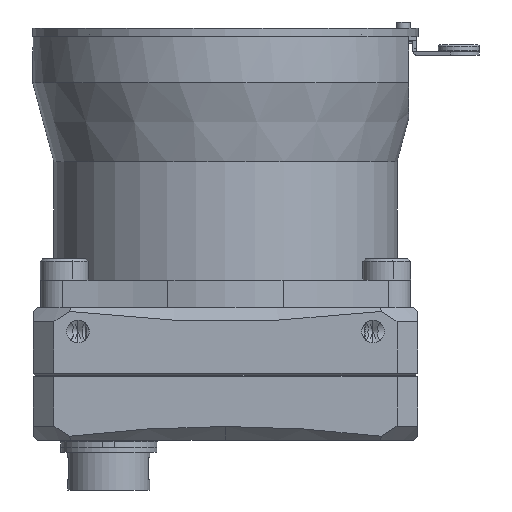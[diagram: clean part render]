
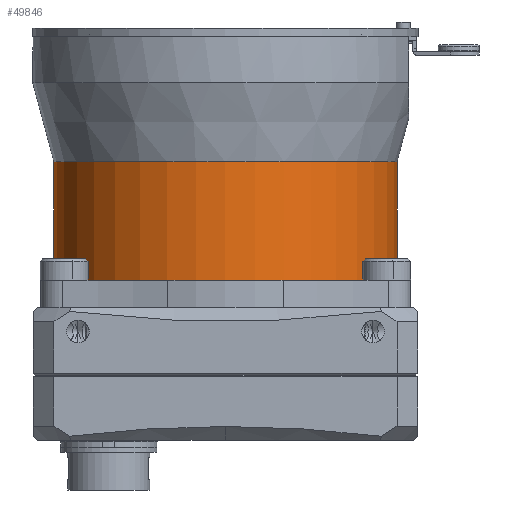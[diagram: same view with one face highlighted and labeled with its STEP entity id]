
A CAD part, front view. The second image highlights one B-rep face of the part: STEP entity #49846.
In plain terms, the highlighted cylindrical face has radius 25 mm (diameter 50 mm), a partial arc.
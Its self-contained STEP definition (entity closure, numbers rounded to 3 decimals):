
#1314 = CARTESIAN_POINT ( 'NONE',  ( -25., 0., 21.163 ) ) ;
#1390 = VERTEX_POINT ( 'NONE', #12150 ) ;
#1575 = CARTESIAN_POINT ( 'NONE',  ( 0., 0., 21.2 ) ) ;
#2401 = CARTESIAN_POINT ( 'NONE',  ( 25., 0., 21.163 ) ) ;
#2549 = DIRECTION ( 'NONE',  ( 1., 0., 0. ) ) ;
#4240 = CIRCLE ( 'NONE', #31861, 25. ) ;
#5137 = EDGE_CURVE ( 'NONE', #47709, #1390, #25263, .T. ) ;
#8406 = VERTEX_POINT ( 'NONE', #40431 ) ;
#9542 = EDGE_CURVE ( 'NONE', #47709, #40672, #27047, .T. ) ;
#11463 = CARTESIAN_POINT ( 'NONE',  ( 0., 0., 21.163 ) ) ;
#12150 = CARTESIAN_POINT ( 'NONE',  ( -25., 0., 4. ) ) ;
#14021 = AXIS2_PLACEMENT_3D ( 'NONE', #33711, #29405, #25367 ) ;
#14719 = FACE_OUTER_BOUND ( 'NONE', #22404, .T. ) ;
#17077 = ORIENTED_EDGE ( 'NONE', *, *, #9542, .T. ) ;
#18060 = LINE ( 'NONE', #1314, #38000 ) ;
#19432 = ORIENTED_EDGE ( 'NONE', *, *, #28486, .F. ) ;
#22404 = EDGE_LOOP ( 'NONE', ( #19432, #24244, #17077, #48441 ) ) ;
#23138 = CYLINDRICAL_SURFACE ( 'NONE', #28391, 25. ) ;
#24244 = ORIENTED_EDGE ( 'NONE', *, *, #5137, .F. ) ;
#25263 = CIRCLE ( 'NONE', #14021, 25. ) ;
#25367 = DIRECTION ( 'NONE',  ( -1., 0., 0. ) ) ;
#25371 = CARTESIAN_POINT ( 'NONE',  ( 25., 0., 21.2 ) ) ;
#27047 = LINE ( 'NONE', #2401, #31834 ) ;
#27411 = EDGE_CURVE ( 'NONE', #8406, #40672, #4240, .T. ) ;
#28391 = AXIS2_PLACEMENT_3D ( 'NONE', #11463, #39580, #2549 ) ;
#28486 = EDGE_CURVE ( 'NONE', #1390, #8406, #18060, .T. ) ;
#29405 = DIRECTION ( 'NONE',  ( 0., 0., -1. ) ) ;
#30509 = DIRECTION ( 'NONE',  ( 0., 0., 1. ) ) ;
#31834 = VECTOR ( 'NONE', #51049, 1000. ) ;
#31861 = AXIS2_PLACEMENT_3D ( 'NONE', #1575, #30509, #46950 ) ;
#33711 = CARTESIAN_POINT ( 'NONE',  ( 0., 0., 4. ) ) ;
#38000 = VECTOR ( 'NONE', #51280, 1000. ) ;
#39580 = DIRECTION ( 'NONE',  ( 0., 0., 1. ) ) ;
#40431 = CARTESIAN_POINT ( 'NONE',  ( -25., 0., 21.2 ) ) ;
#40672 = VERTEX_POINT ( 'NONE', #25371 ) ;
#41691 = CARTESIAN_POINT ( 'NONE',  ( 25., 0., 4. ) ) ;
#46950 = DIRECTION ( 'NONE',  ( 1., 0., 0. ) ) ;
#47709 = VERTEX_POINT ( 'NONE', #41691 ) ;
#48441 = ORIENTED_EDGE ( 'NONE', *, *, #27411, .F. ) ;
#49846 = ADVANCED_FACE ( 'NONE', ( #14719 ), #23138, .T. ) ;
#51049 = DIRECTION ( 'NONE',  ( 0., 0., 1. ) ) ;
#51280 = DIRECTION ( 'NONE',  ( 0., 0., 1. ) ) ;
